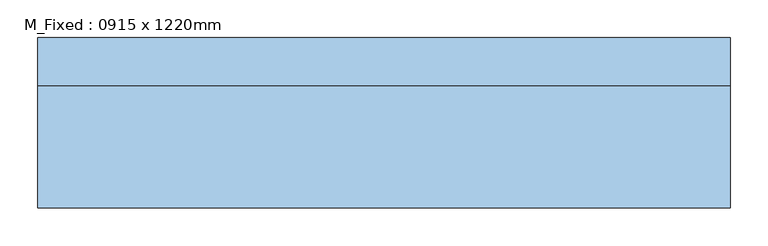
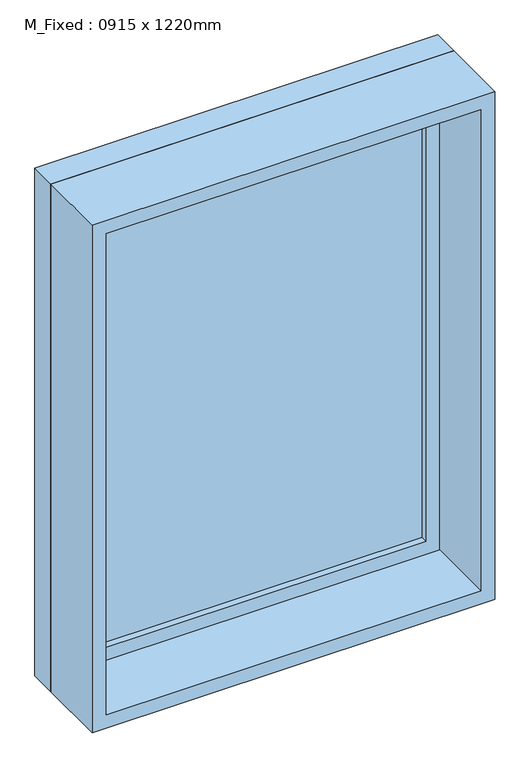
"""IFC4 building model written with IfcOpenShell, lengths in millimetres: window geometry, M_Fixed : 0915 x 1220mm."""

from ifc_helpers import new_model, si_unit, frame, origin, place, context, project, spatial, polyline, outline, extrude, source, transform, mapped, element, save


def m_fixed_0915_x_1220mm_70723515(model_context):
    return source(origin(), model_context, "Body", "SweptSolid", [
        extrude(outline(polyline([(-394.5, 90.5), (394.5, 90.5), (394.5, 78.5), (-394.5, 78.5), (-394.5, 90.5)])), frame((0.0, 0.0, 978.0), z_axis=(0.0, 0.0, 1.0), x_axis=(1.0, 0.0, 0.0)), (0.0, 0.0, 1.0), 1094.0),
        extrude(outline(polyline([(2116.0, -438.5), (934.0, -438.5), (934.0, 438.5), (2116.0, 438.5), (2116.0, -438.5)]), holes=[polyline([(2072.0, -394.5), (2072.0, 394.5), (978.0, 394.5), (978.0, -394.5), (2072.0, -394.5)])]), frame((0.0, 62.5, 0.0), z_axis=(0.0, 1.0, 0.0), x_axis=(0.0, 0.0, 1.0)), (0.0, 0.0, 1.0), 44.0),
        extrude(outline(polyline([(2135.0, -457.5), (915.0, -457.5), (915.0, 457.5), (2135.0, 457.5), (2135.0, -457.5)]), holes=[polyline([(2116.0, -438.5), (2116.0, 438.5), (934.0, 438.5), (934.0, -438.5), (2116.0, -438.5)])]), frame((0.0, 62.5, 0.0), z_axis=(0.0, 1.0, 0.0), x_axis=(0.0, 0.0, 1.0)), (0.0, 0.0, 1.0), 63.0),
        extrude(outline(polyline([(2135.0, -457.5), (915.0, -457.5), (915.0, 457.5), (2135.0, 457.5), (2135.0, -457.5)]), holes=[polyline([(2103.0, -425.5), (2103.0, 425.5), (947.0, 425.5), (947.0, -425.5), (2103.0, -425.5)])]), frame((0.0, -99.5, 0.0), z_axis=(0.0, 1.0, 0.0), x_axis=(0.0, 0.0, 1.0)), (0.0, 0.0, 1.0), 162.0),
    ])


if __name__ == "__main__":
    model = new_model("IFC4")
    model_context = context("Model", 3, world=origin())
    ifc_project = project(units=[si_unit("LENGTHUNIT", "METRE", prefix="MILLI")], contexts=[model_context])
    site = spatial("IfcSite", under=ifc_project)
    building = spatial("IfcBuilding", under=site)
    placement = place(None, origin())
    m_fixed_0915_x_1220mm_shape = m_fixed_0915_x_1220mm_70723515(model_context)
    element("IfcWindow", 1, ObjectType="M_Fixed : 0915 x 1220mm", at=placement, inside=building, context=model_context, shape_type="MappedRepresentation", body=[
        mapped(m_fixed_0915_x_1220mm_shape, transform((0.0, 0.0, 0.0), x_axis=(1.0, 0.0, 0.0), y_axis=(0.0, 1.0, 0.0), z_axis=(0.0, 0.0, 1.0))),
    ])
    save(model, "model.ifc")
